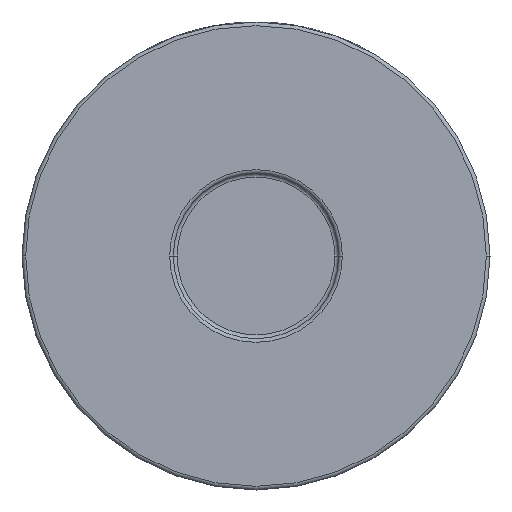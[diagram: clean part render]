
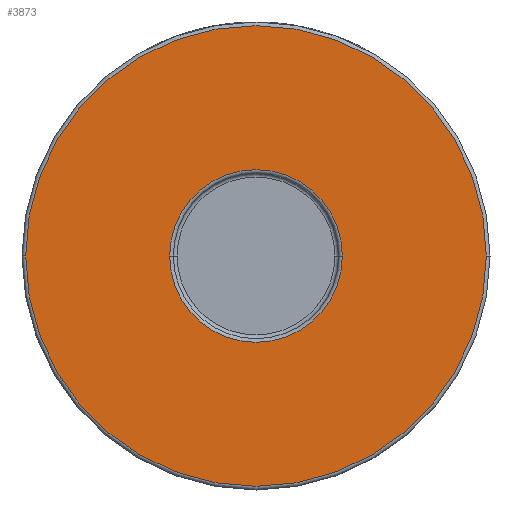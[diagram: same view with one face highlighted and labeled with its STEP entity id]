
A CAD part, front view. The second image highlights one B-rep face of the part: STEP entity #3873.
In plain terms, the highlighted planar face has unit normal (0, -1, 0).
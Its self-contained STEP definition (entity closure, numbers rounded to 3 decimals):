
#78 = EDGE_CURVE ( 'NONE', #472, #1411, #898, .T. ) ;
#459 = EDGE_LOOP ( 'NONE', ( #887, #3804 ) ) ;
#472 = VERTEX_POINT ( 'NONE', #2258 ) ;
#526 = CIRCLE ( 'NONE', #2391, 63. ) ;
#657 = FACE_BOUND ( 'NONE', #819, .T. ) ;
#811 = VERTEX_POINT ( 'NONE', #844 ) ;
#819 = EDGE_LOOP ( 'NONE', ( #4029, #1633 ) ) ;
#844 = CARTESIAN_POINT ( 'NONE',  ( 23.6, -45., 0. ) ) ;
#887 = ORIENTED_EDGE ( 'NONE', *, *, #2164, .T. ) ;
#898 = CIRCLE ( 'NONE', #1992, 63. ) ;
#1050 = DIRECTION ( 'NONE',  ( 0., -1., 0. ) ) ;
#1066 = DIRECTION ( 'NONE',  ( 1., 0., 0. ) ) ;
#1215 = AXIS2_PLACEMENT_3D ( 'NONE', #3233, #1050, #4703 ) ;
#1411 = VERTEX_POINT ( 'NONE', #3642 ) ;
#1479 = DIRECTION ( 'NONE',  ( 1., 0., 0. ) ) ;
#1508 = CARTESIAN_POINT ( 'NONE',  ( 0., -45., 0. ) ) ;
#1633 = ORIENTED_EDGE ( 'NONE', *, *, #1987, .T. ) ;
#1779 = CARTESIAN_POINT ( 'NONE',  ( 0., -45., 0. ) ) ;
#1851 = AXIS2_PLACEMENT_3D ( 'NONE', #1779, #3252, #1479 ) ;
#1987 = EDGE_CURVE ( 'NONE', #2688, #811, #4087, .T. ) ;
#1992 = AXIS2_PLACEMENT_3D ( 'NONE', #1508, #2968, #3732 ) ;
#2115 = DIRECTION ( 'NONE',  ( 0., -1., 0. ) ) ;
#2151 = PLANE ( 'NONE',  #1215 ) ;
#2164 = EDGE_CURVE ( 'NONE', #1411, #472, #526, .T. ) ;
#2225 = EDGE_CURVE ( 'NONE', #811, #2688, #3623, .T. ) ;
#2258 = CARTESIAN_POINT ( 'NONE',  ( -63., -45., 0. ) ) ;
#2391 = AXIS2_PLACEMENT_3D ( 'NONE', #3581, #2115, #1066 ) ;
#2655 = CARTESIAN_POINT ( 'NONE',  ( 0., -45., 0. ) ) ;
#2688 = VERTEX_POINT ( 'NONE', #4708 ) ;
#2728 = DIRECTION ( 'NONE',  ( 0., 1., 0. ) ) ;
#2968 = DIRECTION ( 'NONE',  ( 0., -1., 0. ) ) ;
#3233 = CARTESIAN_POINT ( 'NONE',  ( 64., -45., 0. ) ) ;
#3238 = AXIS2_PLACEMENT_3D ( 'NONE', #2655, #2728, #4122 ) ;
#3252 = DIRECTION ( 'NONE',  ( 0., 1., 0. ) ) ;
#3581 = CARTESIAN_POINT ( 'NONE',  ( 0., -45., 0. ) ) ;
#3592 = FACE_OUTER_BOUND ( 'NONE', #459, .T. ) ;
#3623 = CIRCLE ( 'NONE', #1851, 23.6 ) ;
#3642 = CARTESIAN_POINT ( 'NONE',  ( 63., -45., 0. ) ) ;
#3732 = DIRECTION ( 'NONE',  ( 1., 0., 0. ) ) ;
#3804 = ORIENTED_EDGE ( 'NONE', *, *, #78, .T. ) ;
#3873 = ADVANCED_FACE ( 'NONE', ( #657, #3592 ), #2151, .T. ) ;
#4029 = ORIENTED_EDGE ( 'NONE', *, *, #2225, .T. ) ;
#4087 = CIRCLE ( 'NONE', #3238, 23.6 ) ;
#4122 = DIRECTION ( 'NONE',  ( 1., 0., 0. ) ) ;
#4703 = DIRECTION ( 'NONE',  ( 1., 0., 0. ) ) ;
#4708 = CARTESIAN_POINT ( 'NONE',  ( -23.6, -45., 0. ) ) ;
